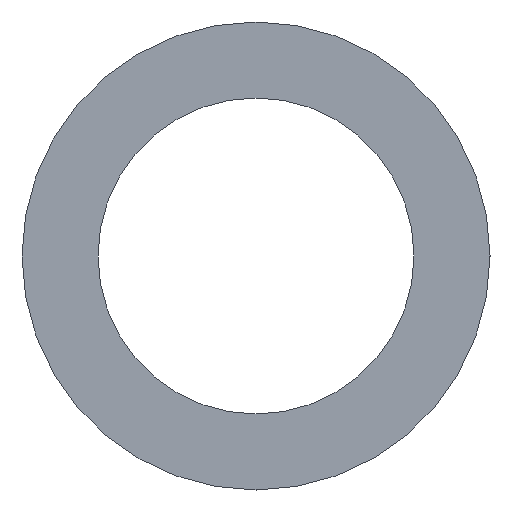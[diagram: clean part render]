
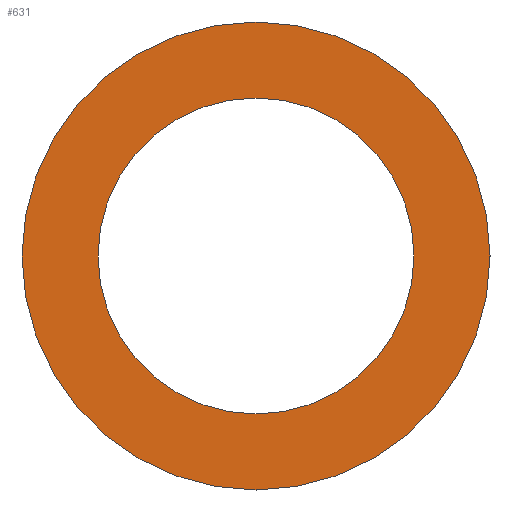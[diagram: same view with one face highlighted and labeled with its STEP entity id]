
A CAD part, front view. The second image highlights one B-rep face of the part: STEP entity #631.
In plain terms, the highlighted planar face has unit normal (0, -1, 0).
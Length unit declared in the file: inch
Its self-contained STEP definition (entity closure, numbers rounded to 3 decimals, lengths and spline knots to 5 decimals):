
#26 = EDGE_LOOP ( 'NONE', ( #111, #128 ) ) ;
#30 = FACE_OUTER_BOUND ( 'NONE', #474, .T. ) ;
#41 = AXIS2_PLACEMENT_3D ( 'NONE', #208, #146, #653 ) ;
#46 = VERTEX_POINT ( 'NONE', #483 ) ;
#50 = CARTESIAN_POINT ( 'NONE',  ( 0., -0.15748, 0. ) ) ;
#68 = CIRCLE ( 'NONE', #634, 0.58605 ) ;
#95 = VERTEX_POINT ( 'NONE', #259 ) ;
#108 = DIRECTION ( 'NONE',  ( 0., -1., 0. ) ) ;
#111 = ORIENTED_EDGE ( 'NONE', *, *, #185, .F. ) ;
#124 = EDGE_CURVE ( 'NONE', #191, #46, #246, .T. ) ;
#128 = ORIENTED_EDGE ( 'NONE', *, *, #124, .F. ) ;
#145 = CARTESIAN_POINT ( 'NONE',  ( 0., -0.15748, 0. ) ) ;
#146 = DIRECTION ( 'NONE',  ( 0., -1., 0. ) ) ;
#160 = DIRECTION ( 'NONE',  ( 0., -1., 0. ) ) ;
#185 = EDGE_CURVE ( 'NONE', #46, #191, #610, .T. ) ;
#191 = VERTEX_POINT ( 'NONE', #598 ) ;
#208 = CARTESIAN_POINT ( 'NONE',  ( 0., -0.15748, 0. ) ) ;
#226 = DIRECTION ( 'NONE',  ( 0., 0., -1. ) ) ;
#246 = CIRCLE ( 'NONE', #310, 0.39567 ) ;
#247 = EDGE_CURVE ( 'NONE', #276, #95, #68, .T. ) ;
#254 = DIRECTION ( 'NONE',  ( 0., -1., 0. ) ) ;
#259 = CARTESIAN_POINT ( 'NONE',  ( 0., -0.15748, 0.58605 ) ) ;
#276 = VERTEX_POINT ( 'NONE', #727 ) ;
#306 = CARTESIAN_POINT ( 'NONE',  ( -0.39567, -0.15748, 0. ) ) ;
#310 = AXIS2_PLACEMENT_3D ( 'NONE', #646, #254, #497 ) ;
#315 = ORIENTED_EDGE ( 'NONE', *, *, #393, .T. ) ;
#362 = AXIS2_PLACEMENT_3D ( 'NONE', #50, #108, #518 ) ;
#393 = EDGE_CURVE ( 'NONE', #95, #276, #548, .T. ) ;
#469 = DIRECTION ( 'NONE',  ( 0., 1., 0. ) ) ;
#474 = EDGE_LOOP ( 'NONE', ( #485, #315 ) ) ;
#483 = CARTESIAN_POINT ( 'NONE',  ( 0., -0.15748, -0.39567 ) ) ;
#485 = ORIENTED_EDGE ( 'NONE', *, *, #247, .T. ) ;
#497 = DIRECTION ( 'NONE',  ( 0., 0., -1. ) ) ;
#518 = DIRECTION ( 'NONE',  ( 0., 0., -1. ) ) ;
#528 = DIRECTION ( 'NONE',  ( 0., 0., 1. ) ) ;
#548 = CIRCLE ( 'NONE', #362, 0.58605 ) ;
#592 = FACE_BOUND ( 'NONE', #26, .T. ) ;
#598 = CARTESIAN_POINT ( 'NONE',  ( 0., -0.15748, 0.39567 ) ) ;
#610 = CIRCLE ( 'NONE', #41, 0.39567 ) ;
#631 = ADVANCED_FACE ( 'NONE', ( #592, #30 ), #687, .F. ) ;
#634 = AXIS2_PLACEMENT_3D ( 'NONE', #145, #160, #226 ) ;
#646 = CARTESIAN_POINT ( 'NONE',  ( 0., -0.15748, 0. ) ) ;
#653 = DIRECTION ( 'NONE',  ( 0., 0., -1. ) ) ;
#675 = AXIS2_PLACEMENT_3D ( 'NONE', #306, #469, #528 ) ;
#687 = PLANE ( 'NONE',  #675 ) ;
#727 = CARTESIAN_POINT ( 'NONE',  ( 0., -0.15748, -0.58605 ) ) ;
